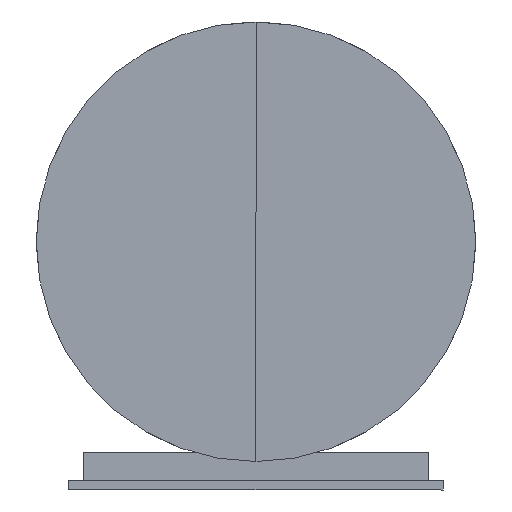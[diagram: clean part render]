
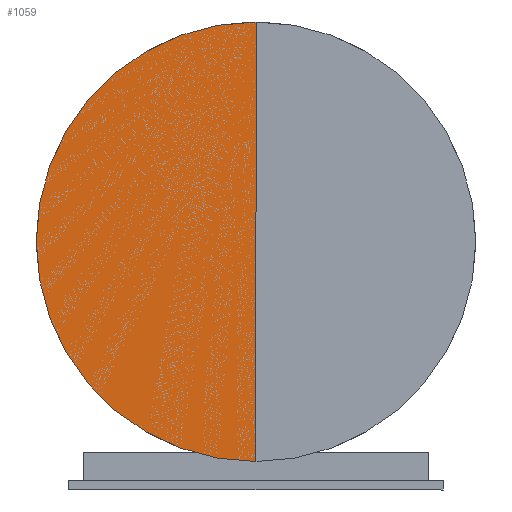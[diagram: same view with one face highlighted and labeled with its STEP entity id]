
A CAD part, front view. The second image highlights one B-rep face of the part: STEP entity #1059.
In plain terms, the highlighted planar face has unit normal (0, -1, 0).
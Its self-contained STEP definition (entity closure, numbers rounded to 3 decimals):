
#1059 = ADVANCED_FACE('',(#1060),#1079,.F.);
#1060 = FACE_BOUND('',#1061,.T.);
#1061 = EDGE_LOOP('',(#1062,#1073));
#1062 = ORIENTED_EDGE('',*,*,#1063,.T.);
#1063 = EDGE_CURVE('',#1064,#1066,#1068,.T.);
#1064 = VERTEX_POINT('',#1065);
#1065 = CARTESIAN_POINT('',(0.,-176.,100.1));
#1066 = VERTEX_POINT('',#1067);
#1067 = CARTESIAN_POINT('',(0.,-176.,6.1));
#1068 = CIRCLE('',#1069,47.);
#1069 = AXIS2_PLACEMENT_3D('',#1070,#1071,#1072);
#1070 = CARTESIAN_POINT('',(0.,-176.,53.1));
#1071 = DIRECTION('',(0.,-1.,0.));
#1072 = DIRECTION('',(0.,-0.,-1.));
#1073 = ORIENTED_EDGE('',*,*,#1074,.T.);
#1074 = EDGE_CURVE('',#1066,#1064,#1075,.T.);
#1075 = LINE('',#1076,#1077);
#1076 = CARTESIAN_POINT('',(0.,-176.,6.1));
#1077 = VECTOR('',#1078,1.);
#1078 = DIRECTION('',(0.,0.,1.));
#1079 = PLANE('',#1080);
#1080 = AXIS2_PLACEMENT_3D('',#1081,#1082,#1083);
#1081 = CARTESIAN_POINT('',(0.,-176.,53.1));
#1082 = DIRECTION('',(0.,1.,0.));
#1083 = DIRECTION('',(0.,0.,-1.));
